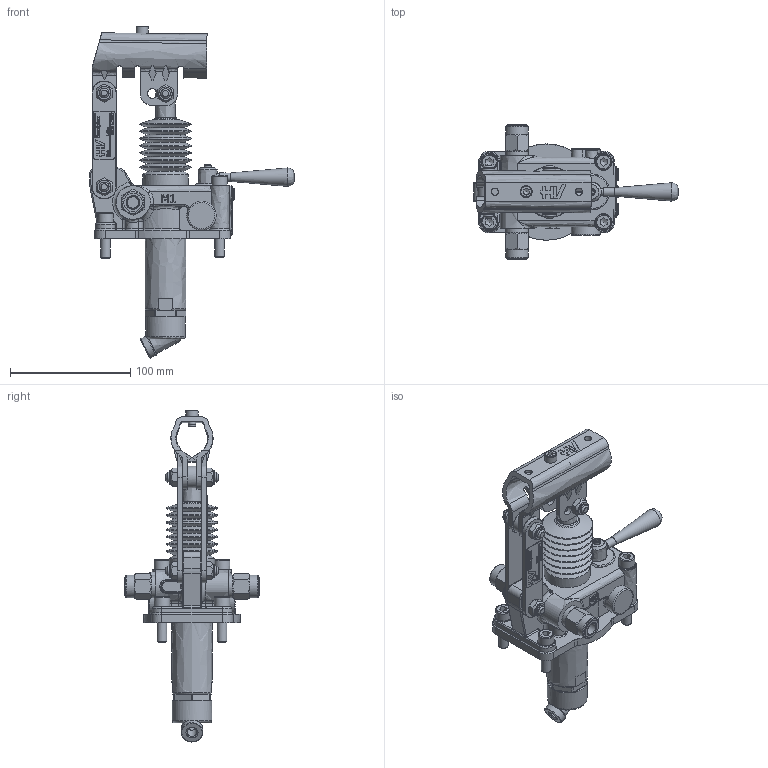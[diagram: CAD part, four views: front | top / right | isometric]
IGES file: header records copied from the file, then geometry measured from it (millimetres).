
Global section: file name: No Iges File Name specified; native system: Autodesk Inventor 2013; preprocessor: AutoDesk Inventor Iges Exporter R2013; author: christian.scardovi; date: 20240307.145056; units: millimetre
Bounding box: 170 x 112 x 276.08 mm (x, y, z)
Volume: 461088.5 mm3; surface area: 130081.6 mm2
Topology: 3 solids, 3 shells, 1694 faces, 4321 edges, 2742 vertices
Faces by surface type: bspline 1694
